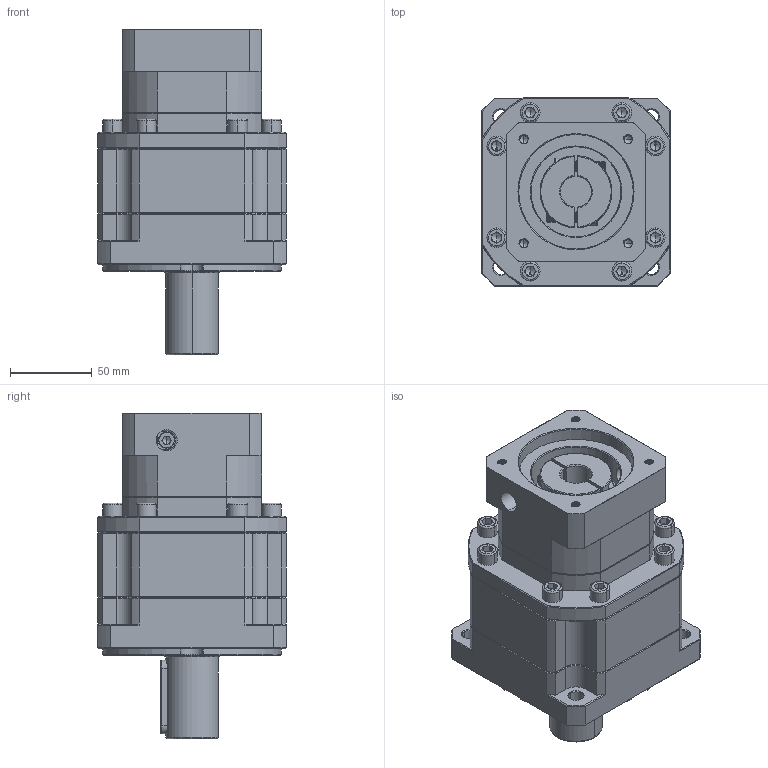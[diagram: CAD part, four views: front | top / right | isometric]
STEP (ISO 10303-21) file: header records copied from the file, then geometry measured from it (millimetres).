
FILE_DESCRIPTION (( 'STEP AP214' ), '1' );
FILE_NAME ('ZB115A-D32-L2-19-70-90-M6.step', '2023-03-03T09:55:12', ( '' ), ( 'Microsoft' ), 'SwSTEP 2.0', 'SolidWorks 2016', '' );
FILE_SCHEMA (( 'AUTOMOTIVE_DESIGN' ));
Length unit declared in the file: millimetre
Products named in the file (1): ZB115A-D32-L2-19-70-90-M6
Bounding box: 115 x 115 x 199 mm (x, y, z)
Volume: 1376861.4 mm3; surface area: 132594.3 mm2
Topology: 5 solids, 5 shells, 2104 faces, 5463 edges, 3453 vertices
Faces by surface type: plane 1000, cylinder 419, bspline 344, cone 341
Entity records: 111842 total; most frequent: CARTESIAN_POINT 40273, ORIENTED_EDGE 10850, DIRECTION 8797, EDGE_CURVE 5425, VERTEX_POINT 3453, LINE 3399, VECTOR 3399, AXIS2_PLACEMENT_3D 2699
